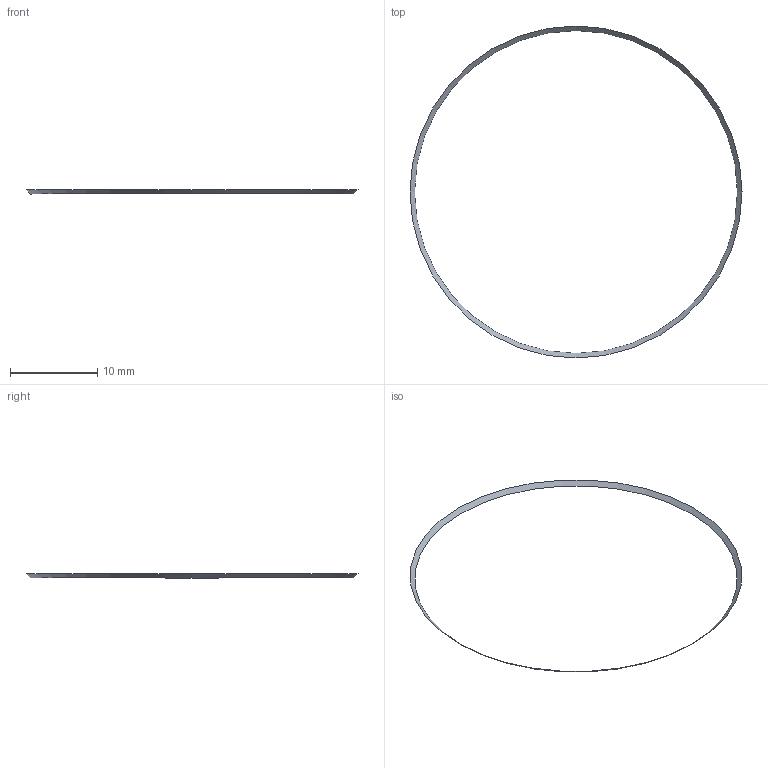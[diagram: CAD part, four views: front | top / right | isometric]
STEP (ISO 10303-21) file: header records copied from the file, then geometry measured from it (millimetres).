
FILE_DESCRIPTION(('BRL-CAD AP214 measured periodic closure band fixture'),'2;1');
FILE_NAME('ap214_measured_periodic_closure_band.stp','2026-07-23T00:00:00',('BRL-CAD'),('BRL-CAD'),'','','');
FILE_SCHEMA(('AUTOMOTIVE_DESIGN { 1 0 10303 214 3 1 1 1 }'));
Length unit declared in the file: millimetre
Products named in the file (1): measured_periodic_closure_band
Bounding box: 38 x 38 x 0.49 mm (x, y, z)
Surface area: 83.3 mm2 (no closed solid volume)
Topology: 0 solids, 1 shells, 1 faces, 3 edges, 2 vertices
Faces by surface type: cone 1
Entity records: 39 total; most frequent: CARTESIAN_POINT 5, DIRECTION 4, AXIS2_PLACEMENT_3D 3, VERTEX_POINT 2, CIRCLE 2, EDGE_CURVE 2, ORIENTED_EDGE 2, EDGE_LOOP 2
